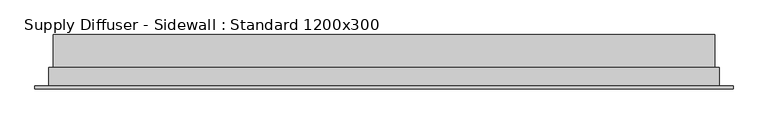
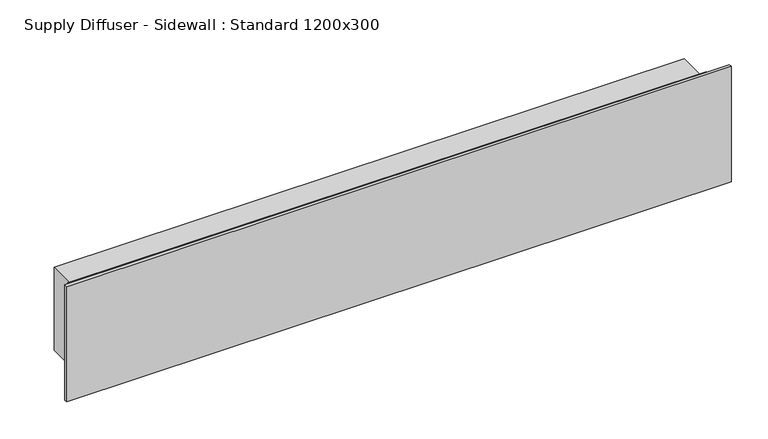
"""IFC4 building model written with IfcOpenShell, lengths in millimetres: air terminal geometry, Supply Diffuser - Sidewall : Standard 1200x300."""

from ifc_helpers import new_model, si_unit, origin, place, context, project, spatial, faceted_brep, source, transform, mapped, element, save


def supply_diffuser_sidewall_standard_1200x300_380ab6ba(model_context):
    return source(origin(), model_context, "Body", "Brep", [
        faceted_brep([(520.6375, -4.7625, 95.6375), (-520.6375, -4.7625, 95.6375), (-520.6375, -4.7625, -95.6375), (520.6375, -4.7625, -95.6375), (520.6375, 0.0, 95.6375), (520.6375, 0.0, -95.6375), (-520.6375, 0.0, -95.6375), (-520.6375, 0.0, 95.6375), (-500.0, 0.0, 75.0), (-500.0, 0.0, -75.0), (500.0, 0.0, -75.0), (500.0, 0.0, 75.0), (-500.0, 27.384375, 75.0), (500.0, 27.384375, 75.0), (500.0, 27.384375, -75.0), (-500.0, 27.384375, -75.0), (-493.65, 27.384375, 68.65), (-493.65, 27.384375, -68.65), (493.65, 27.384375, -68.65), (493.65, 27.384375, 68.65), (-493.65, 76.2, 68.65), (493.65, 76.2, 68.65), (493.65, 76.2, -68.65), (-493.65, 76.2, -68.65)], [[[0, 1, 2, 3]], [[4, 5, 6, 7], [8, 9, 10, 11]], [[1, 0, 4, 7]], [[2, 1, 7, 6]], [[3, 2, 6, 5]], [[0, 3, 5, 4]], [[12, 13, 14, 15], [16, 17, 18, 19]], [[12, 15, 9, 8]], [[15, 14, 10, 9]], [[14, 13, 11, 10]], [[13, 12, 8, 11]], [[20, 21, 22, 23]], [[20, 23, 17, 16]], [[23, 22, 18, 17]], [[22, 21, 19, 18]], [[21, 20, 16, 19]]]),
    ])


if __name__ == "__main__":
    model = new_model("IFC4")
    model_context = context("Model", 3, world=origin())
    ifc_project = project(units=[si_unit("LENGTHUNIT", "METRE", prefix="MILLI")], contexts=[model_context])
    site = spatial("IfcSite", under=ifc_project)
    building = spatial("IfcBuilding", under=site)
    placement = place(None, origin())
    supply_diffuser_sidewall_standard_1200x300_shape = supply_diffuser_sidewall_standard_1200x300_380ab6ba(model_context)
    element("IfcAirTerminal", 1, ObjectType="Supply Diffuser - Sidewall : Standard 1200x300", at=placement, inside=building, context=model_context, shape_type="MappedRepresentation", body=[
        mapped(supply_diffuser_sidewall_standard_1200x300_shape, transform((0.0, 0.0, 0.0), x_axis=(1.0, 0.0, 0.0), y_axis=(0.0, 1.0, 0.0), z_axis=(0.0, 0.0, 1.0))),
    ])
    save(model, "model.ifc")
